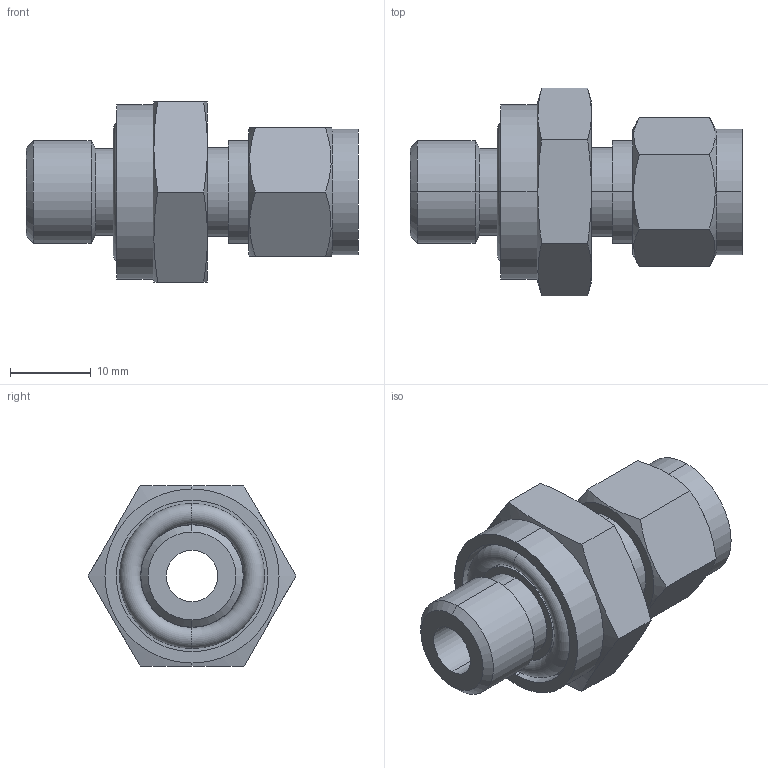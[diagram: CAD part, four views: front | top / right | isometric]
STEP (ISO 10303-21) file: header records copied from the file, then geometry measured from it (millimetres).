
FILE_DESCRIPTION (( 'STEP AP203' ), '1' );
FILE_NAME ('DCO05-05 SS.STEP', '2009-10-08T08:01:46', ( ' ' ), ( '' ), 'SwSTEP 2.0', 'SolidWorks 2008', '' );
FILE_SCHEMA (( 'CONFIG_CONTROL_DESIGN' ));
Length unit declared in the file: millimetre
Products named in the file (1): DCO05-05 SS
Bounding box: 41 x 25.67 x 22.23 mm (x, y, z)
Volume: 7513.6 mm3; surface area: 4691.3 mm2
Topology: 2 solids, 2 shells, 61 faces, 136 edges, 84 vertices
Faces by surface type: plane 21, cylinder 20, cone 16, torus 4
Entity records: 1939 total; most frequent: CARTESIAN_POINT 522, DIRECTION 282, ORIENTED_EDGE 272, EDGE_CURVE 136, AXIS2_PLACEMENT_3D 120, VERTEX_POINT 84, EDGE_LOOP 70, ADVANCED_FACE 61
